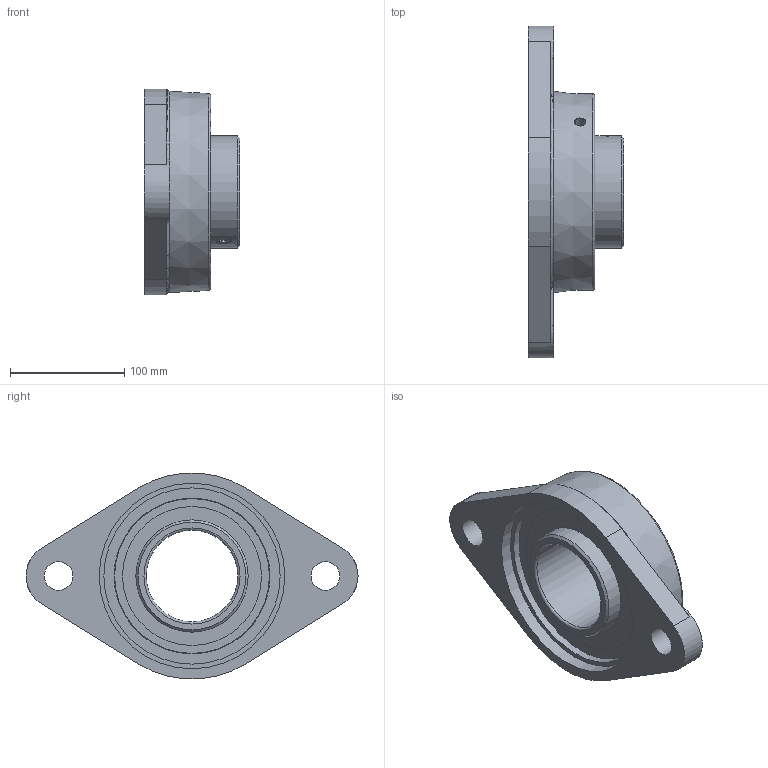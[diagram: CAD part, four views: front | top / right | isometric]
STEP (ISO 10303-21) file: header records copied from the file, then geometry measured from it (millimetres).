
FILE_DESCRIPTION (( 'STEP AP203' ), '1' );
FILE_NAME ('UCFL-216.STEP', '2019-03-08T12:11:39', ( '' ), ( '' ), 'SwSTEP 2.0', 'SolidWorks 2017', '' );
FILE_SCHEMA (( 'CONFIG_CONTROL_DESIGN' ));
Length unit declared in the file: millimetre
Products named in the file (1): UCFL-216
Bounding box: 83.3 x 290 x 179.43 mm (x, y, z)
Volume: 973588.7 mm3; surface area: 172676 mm2
Topology: 1 solids, 3 shells, 94 faces, 213 edges, 143 vertices
Faces by surface type: plane 43, cylinder 25, cone 10, torus 9, sphere 7
Full cylindrical faces by diameter (mm): 1.65 x4, 8.917 x1, 12 x2, 25 x2, 80 x1, 98 x4, 121.335 x2, 154 x2, 162 x1
Entity records: 3089 total; most frequent: CARTESIAN_POINT 1140, DIRECTION 388, ORIENTED_EDGE 312, AXIS2_PLACEMENT_3D 162, EDGE_LOOP 158, EDGE_CURVE 156, VERTEX_POINT 122, FACE_OUTER_BOUND 120
